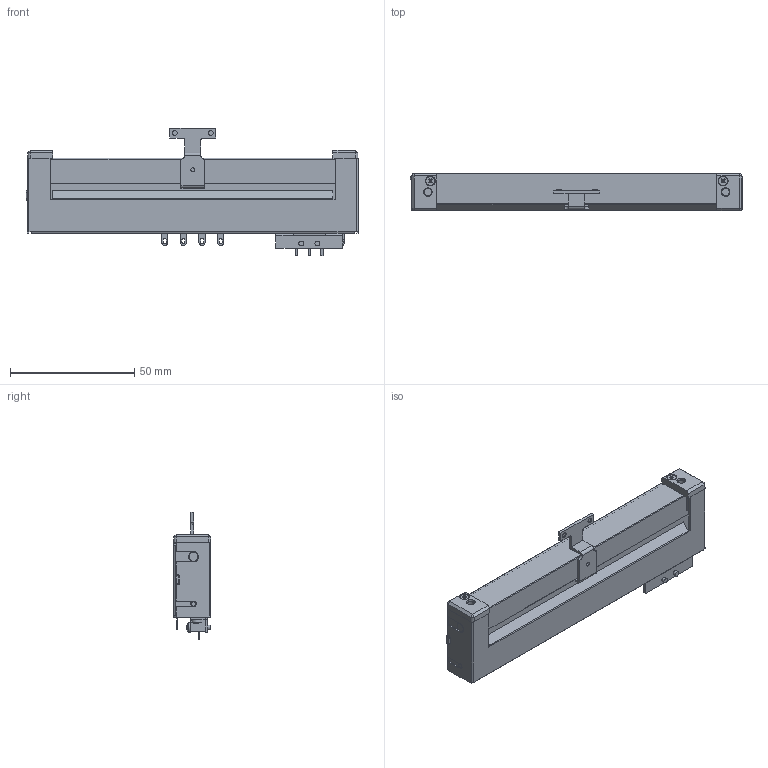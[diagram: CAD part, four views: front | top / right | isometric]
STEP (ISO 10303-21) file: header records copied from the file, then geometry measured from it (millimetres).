
FILE_DESCRIPTION(('FreeCAD Model'),'2;1');
FILE_NAME('Open CASCADE Shape Model','2023-04-07T11:08:56',(''),(''), 'Open CASCADE STEP processor 7.6','FreeCAD','Unknown');
FILE_SCHEMA(('AUTOMOTIVE_DESIGN { 1 0 10303 214 1 1 1 1 }'));
Length unit declared in the file: millimetre
Products named in the file (1): 2cpa-9101w
Bounding box: 133.8 x 15.2 x 51.5 mm (x, y, z)
Volume: 50156.5 mm3; surface area: 26829.8 mm2
Topology: 1 solids, 6 shells, 708 faces, 1858 edges, 1163 vertices
Faces by surface type: plane 499, cylinder 124, cone 51, bspline 18, revolution 6, sphere 6, torus 4
Full cylindrical faces by diameter (mm): 1.1 x2, 1.5 x2, 1.6 x3, 2 x12, 2.2 x7, 2.6 x3, 3 x2, 3.6 x2, 4 x12
Entity records: 49689 total; most frequent: CARTESIAN_POINT 11084, DIRECTION 6453, ORIENTED_EDGE 3706, PCURVE 3700, DEFINITIONAL_REPRESENTATION 3700, LINE 3620, VECTOR 3620, EDGE_CURVE 1850
